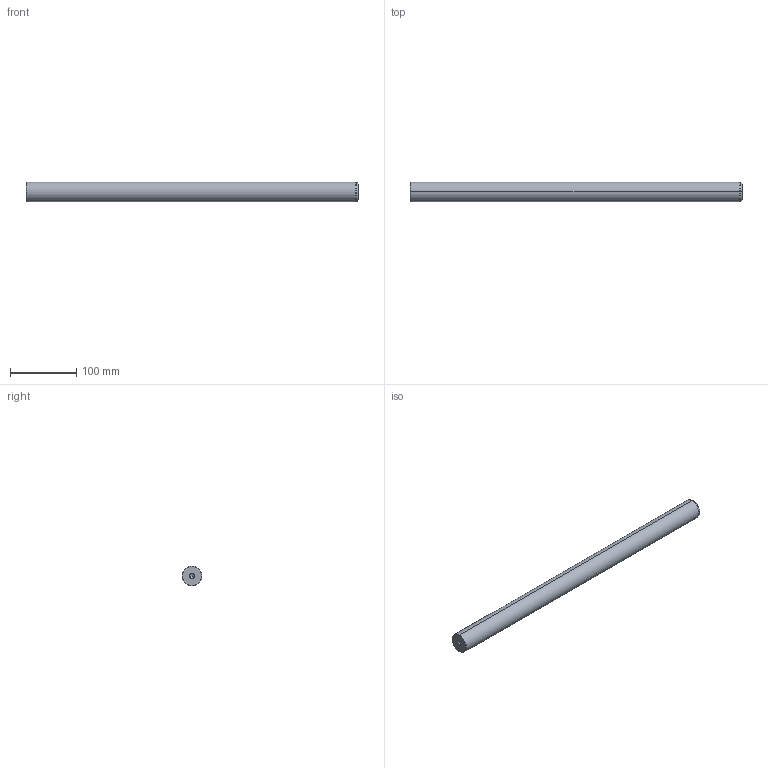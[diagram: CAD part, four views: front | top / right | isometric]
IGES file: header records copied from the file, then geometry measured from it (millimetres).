
Start section: START RECORD GO HERE.
Global section: file name: 720-30x500.igs; native system: DASSAULT SYSTEMES CATIA V5 R20 - www.3ds.com; preprocessor: CATIA Version 5 Release 20 ; author: Utente; organization: NB04-ASUS; date: 20210101.132220; units: millimetre
Bounding box: 500 x 30 x 30 mm (x, y, z)
Surface area: 49334.6 mm2 (no closed solid volume)
Topology: 0 solids, 0 shells, 22 faces, 120 edges, 116 vertices
Faces by surface type: revolution 20, plane 2
